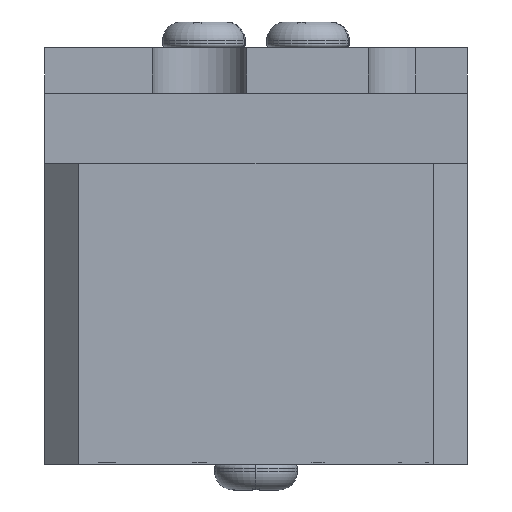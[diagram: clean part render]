
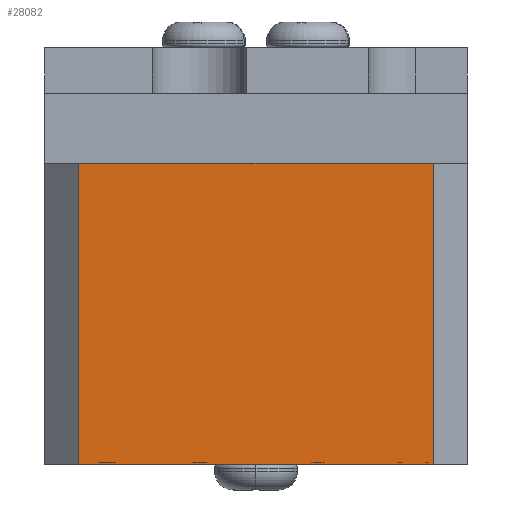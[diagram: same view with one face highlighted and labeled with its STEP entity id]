
A CAD part, front view. The second image highlights one B-rep face of the part: STEP entity #28082.
In plain terms, the highlighted planar face has unit normal (0, -1, 0).
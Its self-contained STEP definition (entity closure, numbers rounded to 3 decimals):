
#1205 = VECTOR ( 'NONE', #49009, 1000. ) ;
#2343 = CARTESIAN_POINT ( 'NONE',  ( -11.874, -23.051, -4.699 ) ) ;
#3065 = VERTEX_POINT ( 'NONE', #2343 ) ;
#6753 = EDGE_CURVE ( 'NONE', #9453, #3065, #11419, .T. ) ;
#6773 = VECTOR ( 'NONE', #31782, 1000. ) ;
#7202 = ORIENTED_EDGE ( 'NONE', *, *, #10407, .T. ) ;
#7956 = LINE ( 'NONE', #41531, #27297 ) ;
#9453 = VERTEX_POINT ( 'NONE', #10025 ) ;
#10025 = CARTESIAN_POINT ( 'NONE',  ( 11.874, -23.051, -4.699 ) ) ;
#10300 = CARTESIAN_POINT ( 'NONE',  ( 0., -23.051, -4.699 ) ) ;
#10394 = DIRECTION ( 'NONE',  ( 0., 0., -1. ) ) ;
#10407 = EDGE_CURVE ( 'NONE', #3065, #29542, #47919, .T. ) ;
#11374 = EDGE_CURVE ( 'NONE', #37245, #9453, #30192, .T. ) ;
#11419 = LINE ( 'NONE', #10300, #1205 ) ;
#12591 = FACE_OUTER_BOUND ( 'NONE', #19193, .T. ) ;
#13330 = CARTESIAN_POINT ( 'NONE',  ( 11.874, -23.051, -24.892 ) ) ;
#13600 = CARTESIAN_POINT ( 'NONE',  ( -11.874, -23.051, -24.892 ) ) ;
#14407 = ORIENTED_EDGE ( 'NONE', *, *, #6753, .T. ) ;
#17996 = CARTESIAN_POINT ( 'NONE',  ( 0., -23.051, -4.699 ) ) ;
#18389 = DIRECTION ( 'NONE',  ( -1., 0., 0. ) ) ;
#19193 = EDGE_LOOP ( 'NONE', ( #14407, #7202, #26141, #39537 ) ) ;
#19209 = CARTESIAN_POINT ( 'NONE',  ( 11.874, -23.051, -4.699 ) ) ;
#19995 = VECTOR ( 'NONE', #49199, 1000. ) ;
#26141 = ORIENTED_EDGE ( 'NONE', *, *, #49116, .F. ) ;
#27297 = VECTOR ( 'NONE', #18389, 1000. ) ;
#28082 = ADVANCED_FACE ( 'NONE', ( #12591 ), #29635, .T. ) ;
#29542 = VERTEX_POINT ( 'NONE', #13600 ) ;
#29635 = PLANE ( 'NONE',  #39952 ) ;
#30192 = LINE ( 'NONE', #19209, #19995 ) ;
#31449 = CARTESIAN_POINT ( 'NONE',  ( -11.874, -23.051, -4.699 ) ) ;
#31782 = DIRECTION ( 'NONE',  ( 0., 0., -1. ) ) ;
#33526 = DIRECTION ( 'NONE',  ( 0., -1., 0. ) ) ;
#37245 = VERTEX_POINT ( 'NONE', #13330 ) ;
#39537 = ORIENTED_EDGE ( 'NONE', *, *, #11374, .T. ) ;
#39952 = AXIS2_PLACEMENT_3D ( 'NONE', #17996, #33526, #10394 ) ;
#41531 = CARTESIAN_POINT ( 'NONE',  ( 0., -23.051, -24.892 ) ) ;
#47919 = LINE ( 'NONE', #31449, #6773 ) ;
#49009 = DIRECTION ( 'NONE',  ( -1., 0., 0. ) ) ;
#49116 = EDGE_CURVE ( 'NONE', #37245, #29542, #7956, .T. ) ;
#49199 = DIRECTION ( 'NONE',  ( 0., 0., 1. ) ) ;
